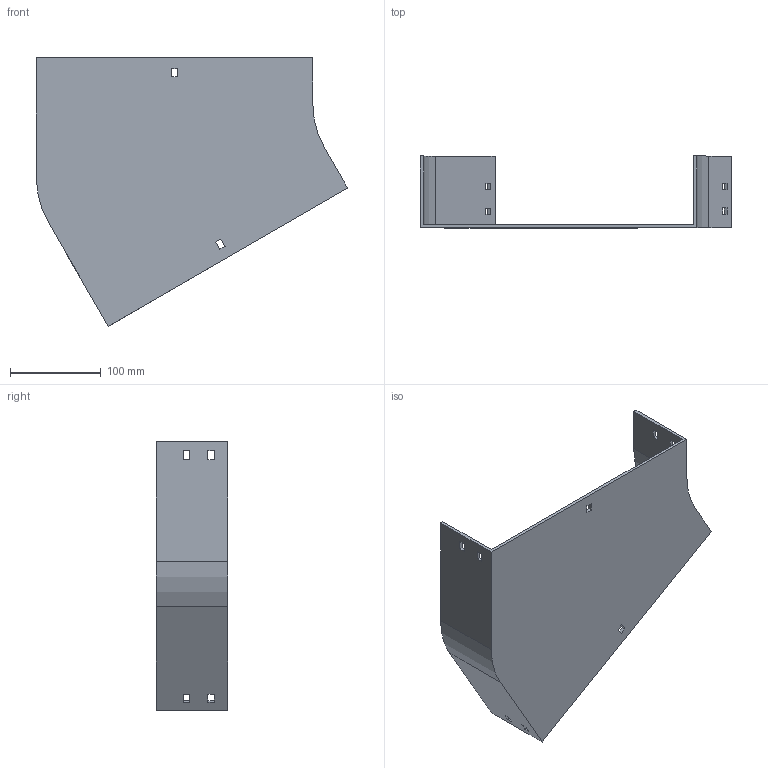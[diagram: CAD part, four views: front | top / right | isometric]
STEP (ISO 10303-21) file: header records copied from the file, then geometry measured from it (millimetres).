
FILE_DESCRIPTION (( 'STEP AP214' ), '1' );
FILE_NAME ('12B1C300.step', '2025-02-21T09:35:35', ( '' ), ( '' ), 'SwSTEP 2.0', 'SolidWorks 2023', '' );
FILE_SCHEMA (( 'AUTOMOTIVE_DESIGN' ));
Length unit declared in the file: millimetre
Products named in the file (1): 12B1C300
Bounding box: 342.4 x 79 x 295.3 mm (x, y, z)
Volume: 371291.8 mm3; surface area: 218157.5 mm2
Topology: 1 solids, 1 shells, 58 faces, 168 edges, 112 vertices
Faces by surface type: plane 54, cylinder 4
Entity records: 1943 total; most frequent: CARTESIAN_POINT 339, ORIENTED_EDGE 336, DIRECTION 294, EDGE_CURVE 168, VECTOR 160, LINE 160, VERTEX_POINT 112, EDGE_LOOP 78
